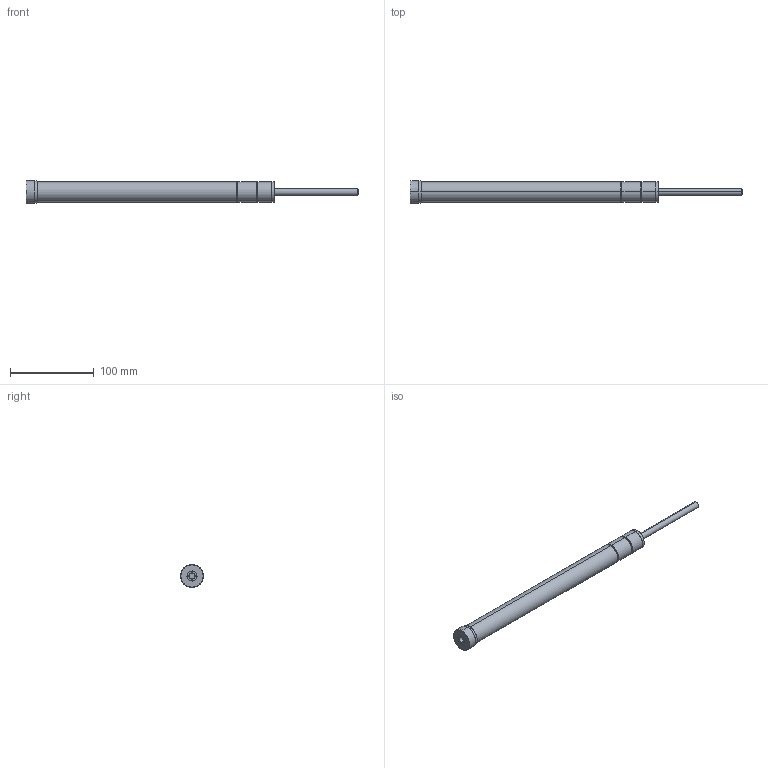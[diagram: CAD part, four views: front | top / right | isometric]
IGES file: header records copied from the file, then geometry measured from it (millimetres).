
Start section: SolidWorks IGES file using analytic representation for surfaces
Global section: file name: D:\IGS跡宒\HR100.IGS,1; native system: 5HSolidWorks 2013; preprocessor: SolidWorks 2013; author: Administrator; date: 160406.154031; units: inch
Bounding box: 396.5 x 27.3 x 27.3 mm (x, y, z)
Surface area: 29527.5 mm2 (no closed solid volume)
Topology: 0 solids, 0 shells, 46 faces, 972 edges, 970 vertices
Faces by surface type: revolution 34, bspline 12
